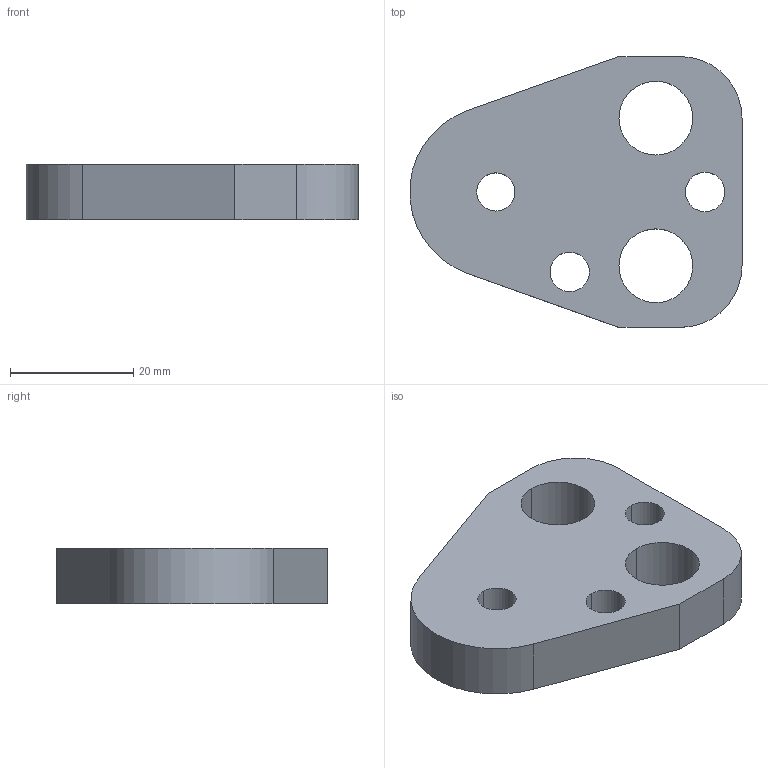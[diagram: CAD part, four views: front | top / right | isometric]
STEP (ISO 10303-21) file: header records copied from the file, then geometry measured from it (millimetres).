
FILE_DESCRIPTION(/* description */ (''),/* implementation_level */ '2;1');
FILE_NAME(/* name */ '3d_bpc16-9_03428_r00.stp',/* time_stamp */ '2011-01-10T14:17:10+09:00',/* author */ ('MISUMI'),/* organization */ (''),/* preprocessor_version */ 'ST-DEVELOPER v11',/* originating_system */ 'UGS - NX 5.0',/* authorisation */ '');
FILE_SCHEMA (('CONFIG_CONTROL_DESIGN'));
Length unit declared in the file: millimetre
Products named in the file (1): 3d_bpc16-9_03428_r00
Bounding box: 53.95 x 44 x 9 mm (x, y, z)
Volume: 14078.5 mm3; surface area: 5804.7 mm2
Topology: 1 solids, 1 shells, 20 faces, 54 edges, 36 vertices
Faces by surface type: cylinder 13, plane 7
Entity records: 750 total; most frequent: DIRECTION 122, CARTESIAN_POINT 111, ORIENTED_EDGE 108, EDGE_CURVE 54, AXIS2_PLACEMENT_3D 47, VERTEX_POINT 36, EDGE_LOOP 30, LINE 28
